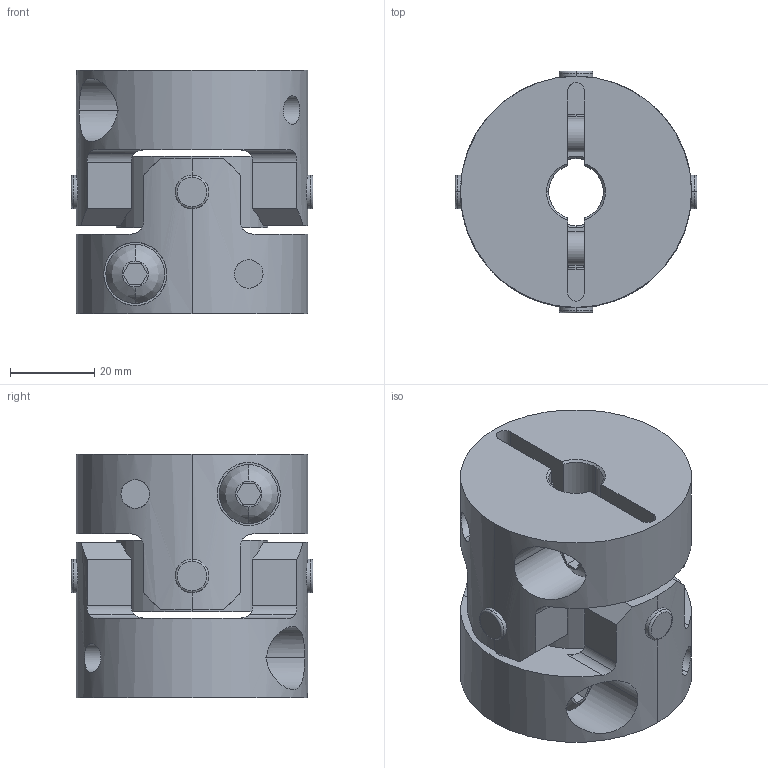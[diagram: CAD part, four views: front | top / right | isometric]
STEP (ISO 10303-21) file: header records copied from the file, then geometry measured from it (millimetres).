
FILE_DESCRIPTION((''),'2;1');
FILE_NAME('UA-55C-13×16.stp','2013-05-22T11:59:46',(''),(''),'AutoCAD STEP 2000i','AutoCAD 2000i',', , ');
FILE_SCHEMA(('CONFIG_CONTROL_DESIGN'));
Length unit declared in the file: millimetre
Products named in the file (6): UA-55C-10×10; 忣兜1; UA-5502-D10-1; BTN-M8; UA-5502-D10; UA55-SEN
Assembly tree (6 placements, depth 3):
  UA-55C-10×10
    忣兜1
    UA-5502-D10-1
      BTN-M8
    UA-5502-D10
      BTN-M8
    UA55-SEN
Bounding box: 57.55 x 57.55 x 58 mm (x, y, z)
Volume: 99206.1 mm3; surface area: 31805.3 mm2
Topology: 1 solids, 1 shells, 206 faces, 554 edges, 364 vertices
Faces by surface type: cylinder 96, plane 78, cone 16, bspline 8, torus 8
Entity records: 8383 total; most frequent: CARTESIAN_POINT 3067, ORIENTED_EDGE 1108, DIRECTION 1064, EDGE_CURVE 554, AXIS2_PLACEMENT_3D 409, VERTEX_POINT 364, VECTOR 246, LINE 246
